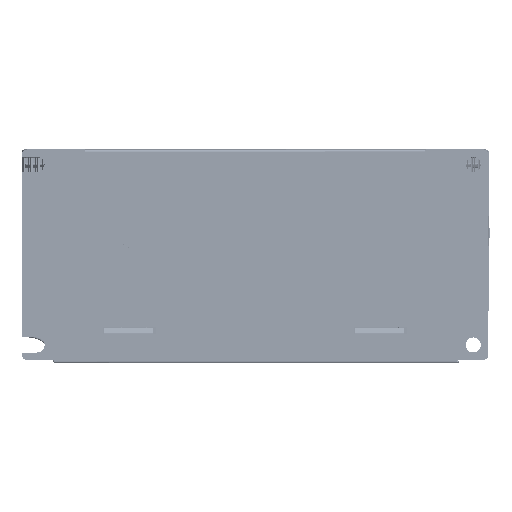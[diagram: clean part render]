
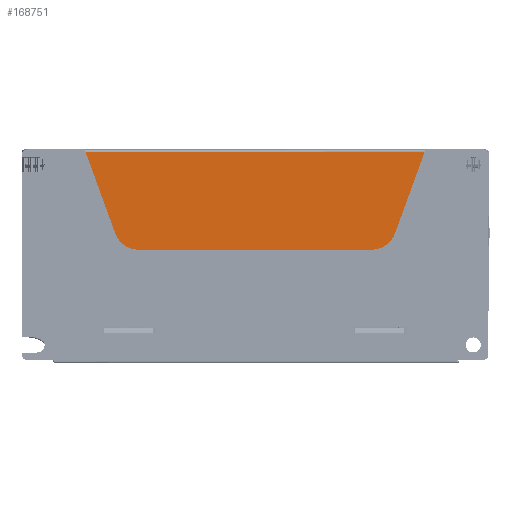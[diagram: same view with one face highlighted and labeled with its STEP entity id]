
A CAD part, left-side view. The second image highlights one B-rep face of the part: STEP entity #168751.
In plain terms, the highlighted planar face has unit normal (-1, 0, 0).
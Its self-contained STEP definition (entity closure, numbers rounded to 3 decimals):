
#6378 = VERTEX_POINT ( 'NONE', #184760 ) ;
#13887 = VECTOR ( 'NONE', #85150, 1000. ) ;
#14128 = EDGE_CURVE ( 'NONE', #6378, #190080, #143580, .T. ) ;
#15644 = EDGE_CURVE ( 'NONE', #6378, #96071, #200282, .T. ) ;
#18625 = VERTEX_POINT ( 'NONE', #77437 ) ;
#18759 = ORIENTED_EDGE ( 'NONE', *, *, #217431, .F. ) ;
#22153 = CARTESIAN_POINT ( 'NONE',  ( -24.261, 35.421, 197.265 ) ) ;
#24038 = VERTEX_POINT ( 'NONE', #25952 ) ;
#25952 = CARTESIAN_POINT ( 'NONE',  ( -24.261, 150.463, 155.609 ) ) ;
#26573 = EDGE_CURVE ( 'NONE', #24038, #190080, #202108, .T. ) ;
#28234 = PLANE ( 'NONE',  #165636 ) ;
#46361 = DIRECTION ( 'NONE',  ( 0., -1., 0. ) ) ;
#46807 = ORIENTED_EDGE ( 'NONE', *, *, #89623, .T. ) ;
#72672 = ORIENTED_EDGE ( 'NONE', *, *, #14128, .T. ) ;
#77437 = CARTESIAN_POINT ( 'NONE',  ( -24.261, 48.188, 162.189 ) ) ;
#79686 = EDGE_LOOP ( 'NONE', ( #72672, #203815, #18759, #109631, #46807, #130011 ) ) ;
#82894 = CARTESIAN_POINT ( 'NONE',  ( -24.261, 137.193, 99.911 ) ) ;
#84273 = EDGE_CURVE ( 'NONE', #18625, #192483, #84363, .T. ) ;
#84363 = CIRCLE ( 'NONE', #154248, 10. ) ;
#84419 = DIRECTION ( 'NONE',  ( 1., 0., 0. ) ) ;
#85150 = DIRECTION ( 'NONE',  ( 0., 1., 0. ) ) ;
#89623 = EDGE_CURVE ( 'NONE', #18625, #96071, #211871, .T. ) ;
#91467 = LINE ( 'NONE', #211499, #13887 ) ;
#96071 = VERTEX_POINT ( 'NONE', #188011 ) ;
#97906 = CARTESIAN_POINT ( 'NONE',  ( -24.261, 159.86, 162.189 ) ) ;
#99690 = VECTOR ( 'NONE', #202966, 1000. ) ;
#102921 = DIRECTION ( 'NONE',  ( 0., 1., 0. ) ) ;
#109631 = ORIENTED_EDGE ( 'NONE', *, *, #84273, .F. ) ;
#115967 = AXIS2_PLACEMENT_3D ( 'NONE', #217507, #160425, #122662 ) ;
#122662 = DIRECTION ( 'NONE',  ( 0., -1., 0. ) ) ;
#125595 = CARTESIAN_POINT ( 'NONE',  ( -24.261, 57.585, 155.609 ) ) ;
#127124 = CARTESIAN_POINT ( 'NONE',  ( -24.261, 57.585, 165.609 ) ) ;
#130011 = ORIENTED_EDGE ( 'NONE', *, *, #15644, .F. ) ;
#143580 = LINE ( 'NONE', #82894, #155098 ) ;
#148542 = FACE_OUTER_BOUND ( 'NONE', #79686, .T. ) ;
#151454 = VECTOR ( 'NONE', #46361, 1000. ) ;
#154248 = AXIS2_PLACEMENT_3D ( 'NONE', #127124, #202658, #238146 ) ;
#155098 = VECTOR ( 'NONE', #213943, 1000. ) ;
#160425 = DIRECTION ( 'NONE',  ( 1., 0., 0. ) ) ;
#165636 = AXIS2_PLACEMENT_3D ( 'NONE', #231639, #84419, #102921 ) ;
#168751 = ADVANCED_FACE ( 'NONE', ( #148542 ), #28234, .F. ) ;
#184760 = CARTESIAN_POINT ( 'NONE',  ( -24.261, 171.66, 194.609 ) ) ;
#188011 = CARTESIAN_POINT ( 'NONE',  ( -24.261, 36.388, 194.609 ) ) ;
#190080 = VERTEX_POINT ( 'NONE', #97906 ) ;
#192483 = VERTEX_POINT ( 'NONE', #125595 ) ;
#196530 = CARTESIAN_POINT ( 'NONE',  ( -24.261, 104.024, 194.609 ) ) ;
#200282 = LINE ( 'NONE', #196530, #151454 ) ;
#202108 = CIRCLE ( 'NONE', #115967, 10. ) ;
#202658 = DIRECTION ( 'NONE',  ( 1., 0., 0. ) ) ;
#202966 = DIRECTION ( 'NONE',  ( 0., -0.342, 0.94 ) ) ;
#203815 = ORIENTED_EDGE ( 'NONE', *, *, #26573, .F. ) ;
#211499 = CARTESIAN_POINT ( 'NONE',  ( -24.261, 104.024, 155.609 ) ) ;
#211871 = LINE ( 'NONE', #22153, #99690 ) ;
#213943 = DIRECTION ( 'NONE',  ( 0., -0.342, -0.94 ) ) ;
#217431 = EDGE_CURVE ( 'NONE', #192483, #24038, #91467, .T. ) ;
#217507 = CARTESIAN_POINT ( 'NONE',  ( -24.261, 150.463, 165.609 ) ) ;
#231639 = CARTESIAN_POINT ( 'NONE',  ( -24.261, 104.024, 139.609 ) ) ;
#238146 = DIRECTION ( 'NONE',  ( 0., -1., 0. ) ) ;
